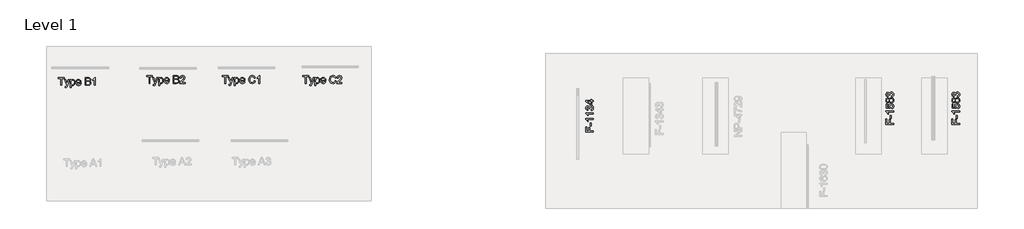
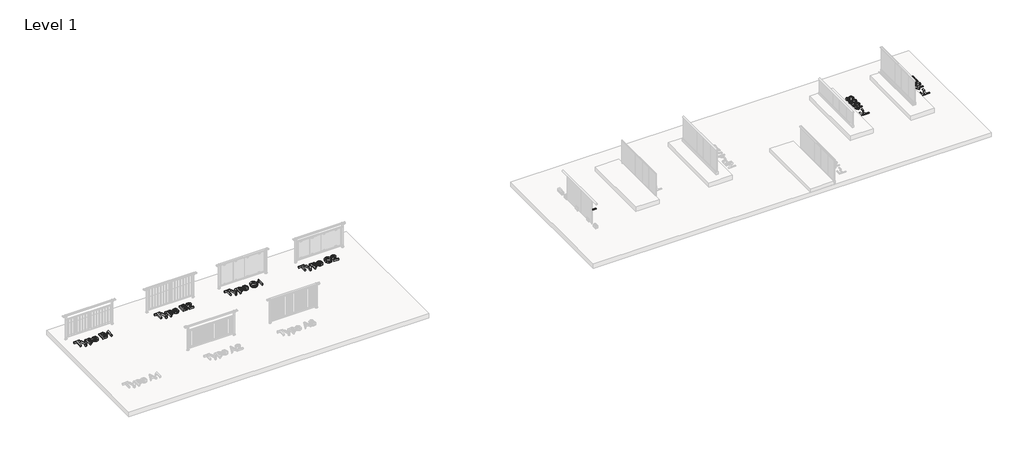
# One storey, part 9 of 9: 7 proxies.
"""IFC4 building model written with IfcOpenShell, lengths in millimetres."""

from ifc_helpers import new_model, si_unit, origin, origin_with_axes, place, context, project, spatial, polyline, outline, extrude, element, save

model = new_model("IFC4")

# Units and contexts
model_context = context("Model", 3, world=origin())
ifc_project = project(units=[si_unit("LENGTHUNIT", "METRE", prefix="MILLI")], contexts=[model_context])

# Site, building, storey
site = spatial("IfcSite", under=ifc_project)
building = spatial("IfcBuilding", under=site)
storey = spatial("IfcBuildingStorey", under=building, Name="Level 1", Elevation=0.0)

# Proxies
placement = place(None, origin())
element("IfcBuildingElementProxy", 1, Name="600mm Arial", ObjectType="600mm Arial", at=placement, inside=storey, context=model_context, shape_type="SweptSolid", body=[
    extrude(outline(polyline([(-2902.9409673, 1236.8167426), (-2902.9409673, 1500.5145568), (-3001.8276476, 1500.5145568), (-3001.8276476, 1538.1856731), (-2766.3831707, 1538.1856731), (-2766.3831707, 1500.5145568), (-2865.269851, 1500.5145568), (-2865.269851, 1236.8167426), (-2902.9409673, 1236.8167426)])), origin_with_axes(), (0.0, 0.0, 1.0), 75.0),
    extrude(outline(polyline([(-2728.7120544, 1152.0567309), (-2733.4209439, 1188.3298957), (-2714.2910802, 1185.0189577), (-2696.4120152, 1189.1760243), (-2685.4491318, 1200.7643071), (-2675.1484359, 1228.5026095), (-2672.2053799, 1237.626083), (-2752.2565021, 1458.1345509), (-2712.5252466, 1458.1345509), (-2670.0716644, 1335.2619645), (-2655.2828082, 1286.11293), (-2640.493952, 1329.5230054), (-2596.8631473, 1458.1345509), (-2557.4261975, 1458.1345509), (-2634.4606872, 1231.5192419), (-2654.4734678, 1182.3702074), (-2664.7189813, 1166.6800403), (-2676.3256583, 1155.8091273), (-2689.8085334, 1149.4631629), (-2705.6826415, 1147.3478414), (-2728.7120544, 1152.0567309)])), origin_with_axes(), (0.0, 0.0, 1.0), 75.0),
    extrude(outline(polyline([(-2526.2298043, 1152.0567309), (-2526.2298043, 1458.1345509), (-2488.558688, 1458.1345509), (-2488.558688, 1421.1991986), (-2476.2714293, 1439.4185544), (-2462.5126427, 1452.43238), (-2446.4729877, 1460.2406754), (-2427.343124, 1462.8434405), (-2401.8672958, 1459.2014087), (-2379.592041, 1448.2753135), (-2361.4554586, 1430.7273423), (-2348.3956478, 1407.2196828), (-2340.504579, 1379.4629863), (-2337.8742227, 1349.167904), (-2340.8448698, 1316.9506382), (-2349.7568112, 1288.136281), (-2364.3249382, 1264.1871631), (-2384.2641423, 1246.5656155), (-2407.4866933, 1235.7222937), (-2431.9048607, 1232.1078531), (-2449.2229056, 1234.5266772), (-2464.6831465, 1241.7831496), (-2477.9177012, 1252.736836), (-2488.558688, 1266.2473023), (-2488.558688, 1152.0567309), (-2526.2298043, 1152.0567309)]), holes=[polyline([(-2488.558688, 1345.7098132), (-2484.4843949, 1311.9382461), (-2472.2615156, 1288.320222), (-2454.2261008, 1274.4142825), (-2432.7142011, 1269.7789694), (-2410.8528135, 1274.5798294), (-2392.3575462, 1288.9824096), (-2379.7483908, 1313.4649563), (-2375.545339, 1348.5057164), (-2379.6472233, 1382.0933425), (-2391.952876, 1406.0424604), (-2409.9606997, 1420.3898582), (-2431.1690967, 1425.1723242), (-2452.4602672, 1420.0863556), (-2471.1578696, 1404.8284498), (-2484.2084834, 1379.8768535), (-2488.558688, 1345.7098132)])]), origin_with_axes(), (0.0, 0.0, 1.0), 75.0),
    extrude(outline(polyline([(-2140.5423205, 1302.7411962), (-2103.6069682, 1298.0323066), (-2116.9150994, 1270.2020337), (-2138.1510875, 1249.3983069), (-2166.8366861, 1236.4304665), (-2202.4936485, 1232.1078531), (-2225.8679508, 1233.972555), (-2246.6946702, 1239.5666606), (-2264.9738069, 1248.8901699), (-2280.7053607, 1261.9430829), (-2293.3559028, 1278.3621162), (-2302.3920043, 1297.7839863), (-2307.8136652, 1320.2086932), (-2309.6208855, 1345.6362368), (-2307.7952711, 1371.9260039), (-2302.3184279, 1395.0979711), (-2293.1903559, 1415.1521383), (-2280.4110551, 1432.0885057), (-2264.720888, 1445.5437897), (-2246.8602171, 1455.1547068), (-2226.8290425, 1460.9212571), (-2204.6273641, 1462.8434405), (-2183.1407563, 1460.9258556), (-2163.7096892, 1455.1731009), (-2146.3341627, 1445.5851764), (-2131.0141768, 1432.1620821), (-2118.5084883, 1415.2625029), (-2109.5758536, 1395.2451239), (-2104.2162728, 1372.1099449), (-2102.4297458, 1345.856966), (-2102.650475, 1335.7034229), (-2271.9497692, 1335.7034229), (-2265.4290608, 1307.505268), (-2250.2815197, 1286.7751176), (-2228.4201321, 1274.0280065), (-2201.7578845, 1269.7789694), (-2181.7083158, 1271.7471381), (-2164.8225322, 1277.6516441), (-2151.1005338, 1287.8603695), (-2140.5423205, 1302.7411962)]), holes=[polyline([(-2271.9497692, 1373.3745392), (-2140.1008621, 1373.3745392), (-2145.1960278, 1393.2769552), (-2155.1840239, 1407.5139884), (-2177.146579, 1420.7577402), (-2204.7745169, 1425.1723242), (-2230.1675716, 1421.6498541), (-2251.1644365, 1411.0824438), (-2265.7601546, 1394.6105274), (-2271.9497692, 1373.3745392)])]), origin_with_axes(), (0.0, 0.0, 1.0), 75.0),
    extrude(outline(polyline([(-1942.3275015, 1236.8167426), (-1942.3275015, 1538.1856731), (-1827.3275898, 1538.1856731), (-1795.6989353, 1535.9691841), (-1771.0048564, 1529.319717), (-1752.0773277, 1518.071725), (-1737.748324, 1502.0596612), (-1728.7260181, 1483.224103), (-1725.7185828, 1463.5056281), (-1728.2477715, 1445.3598487), (-1735.8353376, 1428.2993211), (-1748.5364635, 1413.3725092), (-1766.4063314, 1401.6278765), (-1745.0599787, 1390.481052), (-1729.2870381, 1373.521692), (-1719.5473623, 1351.8718366), (-1716.3008037, 1326.6535259), (-1718.5172927, 1305.6382669), (-1725.1667598, 1286.1497182), (-1735.0903766, 1269.5766343), (-1747.1293149, 1257.3077698), (-1761.8721858, 1248.4234196), (-1779.9076006, 1242.0038788), (-1828.2105066, 1236.8167426), (-1942.3275015, 1236.8167426)]), holes=[polyline([(-1904.6563852, 1415.7545451), (-1835.8624521, 1415.7545451), (-1795.6897382, 1418.9919067), (-1781.627449, 1424.5745159), (-1771.5198912, 1432.9346343), (-1765.4222471, 1443.943503), (-1763.3896991, 1457.4723633), (-1765.2842913, 1470.6057506), (-1770.9680682, 1482.0468806), (-1780.1835121, 1490.9772161), (-1792.6731059, 1496.5782194), (-1841.0863764, 1500.5145568), (-1904.6563852, 1500.5145568), (-1904.6563852, 1415.7545451)]), polyline([(-1904.6563852, 1274.4878589), (-1827.4011662, 1274.4878589), (-1799.4421346, 1275.9593869), (-1775.7873223, 1284.1631554), (-1760.1155493, 1300.9017862), (-1755.5078273, 1312.7291923), (-1753.97192, 1326.2856439), (-1755.7745418, 1342.0309933), (-1761.1824071, 1355.5690507), (-1770.6277773, 1366.1548551), (-1784.5429138, 1373.0434455), (-1804.2521917, 1376.823433), (-1831.0799862, 1378.0834288), (-1904.6563852, 1378.0834288), (-1904.6563852, 1274.4878589)])]), origin_with_axes(), (0.0, 0.0, 1.0), 75.0),
    extrude(outline(polyline([(-1537.3630012, 1236.8167426), (-1575.0341175, 1236.8167426), (-1575.0341175, 1471.6726084), (-1610.7186711, 1446.2519625), (-1650.3763501, 1427.2324633), (-1650.3763501, 1462.8434405), (-1620.7894407, 1478.9382778), (-1595.1572627, 1498.0865356), (-1574.9513441, 1518.448804), (-1561.6432129, 1538.1856731), (-1537.3630012, 1538.1856731), (-1537.3630012, 1236.8167426)])), origin_with_axes(), (0.0, 0.0, 1.0), 75.0),
])
element("IfcBuildingElementProxy", 2, Name="600mm Arial", ObjectType="600mm Arial", at=placement, inside=storey, context=model_context, shape_type="SweptSolid", body=[
    extrude(outline(polyline([(576.284977, 1315.3571132), (576.284977, 1579.0549274), (477.3982967, 1579.0549274), (477.3982967, 1616.7260437), (712.8427736, 1616.7260437), (712.8427736, 1579.0549274), (613.9560933, 1579.0549274), (613.9560933, 1315.3571132), (576.284977, 1315.3571132)])), origin_with_axes(), (0.0, 0.0, 1.0), 75.0),
    extrude(outline(polyline([(750.51389, 1230.5971015), (745.8050004, 1266.8702663), (764.9348642, 1263.5593283), (782.8139291, 1267.7163949), (793.7768126, 1279.3046777), (804.0775085, 1307.0429801), (807.0205644, 1316.1664536), (726.9694423, 1536.6749215), (766.7006977, 1536.6749215), (809.15428, 1413.8023351), (823.9431362, 1364.6533006), (838.7319924, 1408.063376), (882.362797, 1536.6749215), (921.7997469, 1536.6749215), (844.7652571, 1310.0596125), (824.7524766, 1260.9105779), (814.506963, 1245.2204109), (802.9002861, 1234.3494979), (789.4174109, 1228.0035335), (773.5433029, 1225.888212), (750.51389, 1230.5971015)])), origin_with_axes(), (0.0, 0.0, 1.0), 75.0),
    extrude(outline(polyline([(952.9961401, 1230.5971015), (952.9961401, 1536.6749215), (990.6672564, 1536.6749215), (990.6672564, 1499.7395692), (1002.954515, 1517.958925), (1016.7133017, 1530.9727506), (1032.7529567, 1538.781046), (1051.8828204, 1541.3838111), (1077.3586486, 1537.7417793), (1099.6339034, 1526.8156841), (1117.7704857, 1509.2677129), (1130.8302966, 1485.7600534), (1138.7213654, 1458.0033569), (1141.3517216, 1427.7082746), (1138.3810745, 1395.4910088), (1129.4691332, 1366.6766516), (1114.9010062, 1342.7275337), (1094.961802, 1325.1059861), (1071.7392511, 1314.2626643), (1047.3210837, 1310.6482237), (1030.0030387, 1313.0670478), (1014.5427979, 1320.3235202), (1001.3082431, 1331.2772066), (990.6672564, 1344.7876728), (990.6672564, 1230.5971015), (952.9961401, 1230.5971015)]), holes=[polyline([(990.6672564, 1424.2501838), (994.7415495, 1390.4786166), (1006.9644288, 1366.8605926), (1024.9998436, 1352.9546531), (1046.5117433, 1348.31934), (1068.3731308, 1353.1202), (1086.8683981, 1367.5227801), (1099.4775535, 1392.0053269), (1103.6806053, 1427.046087), (1099.5787211, 1460.6337131), (1087.2730683, 1484.582831), (1069.2652447, 1498.9302288), (1048.0568477, 1503.7126948), (1026.7656772, 1498.6267262), (1008.0680748, 1483.3688204), (995.017461, 1458.4172241), (990.6672564, 1424.2501838)])]), origin_with_axes(), (0.0, 0.0, 1.0), 75.0),
    extrude(outline(polyline([(1338.6836238, 1381.2815668), (1375.6189762, 1376.5726772), (1362.310845, 1348.7424043), (1341.0748568, 1327.9386775), (1312.3892582, 1314.9708371), (1276.7322959, 1310.6482237), (1253.3579936, 1312.5129256), (1232.5312741, 1318.1070311), (1214.2521375, 1327.4305405), (1198.5205837, 1340.4834535), (1185.8700416, 1356.9024868), (1176.8339401, 1376.3243569), (1171.4122792, 1398.7490638), (1169.6050589, 1424.1766074), (1171.4306733, 1450.4663745), (1176.9075165, 1473.6383417), (1186.0355885, 1493.6925089), (1198.8148893, 1510.6288763), (1214.5050564, 1524.0841602), (1232.3657272, 1533.6950774), (1252.3969019, 1539.4616276), (1274.5985803, 1541.3838111), (1296.0851881, 1539.4662262), (1315.5162552, 1533.7134715), (1332.8917817, 1524.125547), (1348.2117675, 1510.7024527), (1360.7174561, 1493.8028735), (1369.6500908, 1473.7854945), (1375.0096716, 1450.6503155), (1376.7961985, 1424.3973366), (1376.5754693, 1414.2437935), (1207.2761752, 1414.2437935), (1213.7968835, 1386.0456386), (1228.9444247, 1365.3154882), (1250.8058122, 1352.568377), (1277.4680598, 1348.31934), (1297.5176286, 1350.2875087), (1314.4034122, 1356.1920147), (1328.1254106, 1366.4007401), (1338.6836238, 1381.2815668)]), holes=[polyline([(1207.2761752, 1451.9149098), (1339.1250822, 1451.9149098), (1334.0299166, 1471.8173258), (1324.0419204, 1486.054359), (1302.0793653, 1499.2981108), (1274.4514275, 1503.7126948), (1249.0583728, 1500.1902247), (1228.0615079, 1489.6228143), (1213.4657897, 1473.150898), (1207.2761752, 1451.9149098)])]), origin_with_axes(), (0.0, 0.0, 1.0), 75.0),
    extrude(outline(polyline([(1536.8984428, 1315.3571132), (1536.8984428, 1616.7260437), (1651.8983545, 1616.7260437), (1683.5270091, 1614.5095547), (1708.221088, 1607.8600876), (1727.1486167, 1596.6120956), (1741.4776204, 1580.6000318), (1750.4999263, 1561.7644736), (1753.5073616, 1542.0459987), (1750.9781729, 1523.9002192), (1743.3906067, 1506.8396917), (1730.6894809, 1491.9128798), (1712.8196129, 1480.1682471), (1734.1659657, 1469.0214226), (1749.9389063, 1452.0620626), (1759.6785821, 1430.4122072), (1762.9251407, 1405.1938965), (1760.7086517, 1384.1786375), (1754.0591846, 1364.6900888), (1744.1355678, 1348.1170049), (1732.0966295, 1335.8481404), (1717.3537585, 1326.9637902), (1699.3183437, 1320.5442494), (1651.0154377, 1315.3571132), (1536.8984428, 1315.3571132)]), holes=[polyline([(1574.5695592, 1494.2949157), (1643.3634923, 1494.2949157), (1683.5362061, 1497.5322772), (1697.5984954, 1503.1148865), (1707.7060532, 1511.4750049), (1713.8036973, 1522.4838736), (1715.8362453, 1536.0127339), (1713.941653, 1549.1461212), (1708.2578762, 1560.5872512), (1699.0424322, 1569.5175866), (1686.5528385, 1575.11859), (1638.1395679, 1579.0549274), (1574.5695592, 1579.0549274), (1574.5695592, 1494.2949157)]), polyline([(1574.5695592, 1353.0282295), (1651.8247781, 1353.0282295), (1679.7838098, 1354.4997575), (1703.4386221, 1362.703526), (1719.1103951, 1379.4421568), (1723.718117, 1391.2695629), (1725.2540244, 1404.8260145), (1723.4514026, 1420.5713639), (1718.0435373, 1434.1094213), (1708.598167, 1444.6952257), (1694.6830306, 1451.583816), (1674.9737527, 1455.3638035), (1648.1459582, 1456.6237994), (1574.5695592, 1456.6237994), (1574.5695592, 1353.0282295)])]), origin_with_axes(), (0.0, 0.0, 1.0), 75.0),
    extrude(outline(polyline([(1993.6607281, 1353.0282295), (1993.6607281, 1315.3571132), (1795.8873675, 1315.3571132), (1799.9340694, 1341.3295821), (1809.2230898, 1361.6274712), (1822.8163295, 1381.318355), (1842.4796221, 1401.9289437), (1869.9788013, 1424.9859478), (1910.6297617, 1461.0935656), (1935.020338, 1487.7466162), (1947.2156262, 1509.3780775), (1951.2807222, 1530.4209276), (1947.4455524, 1549.2840769), (1935.940043, 1564.965047), (1918.2541161, 1575.5324573), (1895.8776937, 1579.0549274), (1872.3792313, 1575.6152307), (1854.1230873, 1565.2961408), (1842.3416664, 1548.9069979), (1838.2673733, 1527.2571425), (1800.596257, 1531.966032), (1809.7289275, 1568.4047436), (1818.2752861, 1582.9406809), (1829.4749936, 1595.021006), (1843.0705326, 1604.51696), (1858.8043857, 1611.2997843), (1896.6870341, 1616.7260437), (1916.8768579, 1615.2177275), (1934.8455941, 1610.692779), (1950.5932427, 1603.1511981), (1964.1198038, 1592.5929848), (1974.983819, 1579.7998884), (1982.7438299, 1565.5536582), (1987.3998364, 1549.854294), (1988.9518385, 1532.701796), (1987.2779754, 1514.6847753), (1982.2563862, 1496.9804542), (1973.3444449, 1478.9726306), (1959.9995255, 1460.0451019), (1938.7267491, 1437.4479504), (1906.0312368, 1408.431258), (1862.6947378, 1372.1948815), (1845.6985896, 1353.0282295), (1993.6607281, 1353.0282295)])), origin_with_axes(), (0.0, 0.0, 1.0), 75.0),
])
element("IfcBuildingElementProxy", 3, Name="600mm Arial", ObjectType="600mm Arial", at=placement, inside=storey, context=model_context, shape_type="SweptSolid", body=[
    extrude(outline(polyline([(3556.284977, 1315.3571132), (3556.284977, 1579.0549274), (3457.3982967, 1579.0549274), (3457.3982967, 1616.7260437), (3692.8427736, 1616.7260437), (3692.8427736, 1579.0549274), (3593.9560933, 1579.0549274), (3593.9560933, 1315.3571132), (3556.284977, 1315.3571132)])), origin_with_axes(), (0.0, 0.0, 1.0), 75.0),
    extrude(outline(polyline([(3730.51389, 1230.5971015), (3725.8050004, 1266.8702663), (3744.9348642, 1263.5593283), (3762.8139291, 1267.7163949), (3773.7768126, 1279.3046777), (3784.0775085, 1307.0429801), (3787.0205644, 1316.1664536), (3706.9694423, 1536.6749215), (3746.7006977, 1536.6749215), (3789.15428, 1413.8023351), (3803.9431362, 1364.6533006), (3818.7319924, 1408.063376), (3862.362797, 1536.6749215), (3901.7997469, 1536.6749215), (3824.7652571, 1310.0596125), (3804.7524766, 1260.9105779), (3794.506963, 1245.2204109), (3782.9002861, 1234.3494979), (3769.4174109, 1228.0035335), (3753.5433029, 1225.888212), (3730.51389, 1230.5971015)])), origin_with_axes(), (0.0, 0.0, 1.0), 75.0),
    extrude(outline(polyline([(3932.9961401, 1230.5971015), (3932.9961401, 1536.6749215), (3970.6672564, 1536.6749215), (3970.6672564, 1499.7395692), (3982.954515, 1517.958925), (3996.7133017, 1530.9727506), (4012.7529567, 1538.781046), (4031.8828204, 1541.3838111), (4057.3586486, 1537.7417793), (4079.6339034, 1526.8156841), (4097.7704857, 1509.2677129), (4110.8302966, 1485.7600534), (4118.7213654, 1458.0033569), (4121.3517216, 1427.7082746), (4118.3810745, 1395.4910088), (4109.4691332, 1366.6766516), (4094.9010062, 1342.7275337), (4074.961802, 1325.1059861), (4051.7392511, 1314.2626643), (4027.3210837, 1310.6482237), (4010.0030387, 1313.0670478), (3994.5427979, 1320.3235202), (3981.3082431, 1331.2772066), (3970.6672564, 1344.7876728), (3970.6672564, 1230.5971015), (3932.9961401, 1230.5971015)]), holes=[polyline([(3970.6672564, 1424.2501838), (3974.7415495, 1390.4786166), (3986.9644288, 1366.8605926), (4004.9998436, 1352.9546531), (4026.5117433, 1348.31934), (4048.3731308, 1353.1202), (4066.8683981, 1367.5227801), (4079.4775535, 1392.0053269), (4083.6806053, 1427.046087), (4079.5787211, 1460.6337131), (4067.2730683, 1484.582831), (4049.2652447, 1498.9302288), (4028.0568477, 1503.7126948), (4006.7656772, 1498.6267262), (3988.0680748, 1483.3688204), (3975.017461, 1458.4172241), (3970.6672564, 1424.2501838)])]), origin_with_axes(), (0.0, 0.0, 1.0), 75.0),
    extrude(outline(polyline([(4318.6836238, 1381.2815668), (4355.6189762, 1376.5726772), (4342.310845, 1348.7424043), (4321.0748568, 1327.9386775), (4292.3892582, 1314.9708371), (4256.7322959, 1310.6482237), (4233.3579936, 1312.5129256), (4212.5312741, 1318.1070311), (4194.2521375, 1327.4305405), (4178.5205837, 1340.4834535), (4165.8700416, 1356.9024868), (4156.8339401, 1376.3243569), (4151.4122792, 1398.7490638), (4149.6050589, 1424.1766074), (4151.4306733, 1450.4663745), (4156.9075165, 1473.6383417), (4166.0355885, 1493.6925089), (4178.8148893, 1510.6288763), (4194.5050564, 1524.0841602), (4212.3657272, 1533.6950774), (4232.3969019, 1539.4616276), (4254.5985803, 1541.3838111), (4276.0851881, 1539.4662262), (4295.5162552, 1533.7134715), (4312.8917817, 1524.125547), (4328.2117675, 1510.7024527), (4340.7174561, 1493.8028735), (4349.6500908, 1473.7854945), (4355.0096716, 1450.6503155), (4356.7961985, 1424.3973366), (4356.5754693, 1414.2437935), (4187.2761752, 1414.2437935), (4193.7968835, 1386.0456386), (4208.9444247, 1365.3154882), (4230.8058122, 1352.568377), (4257.4680598, 1348.31934), (4277.5176286, 1350.2875087), (4294.4034122, 1356.1920147), (4308.1254106, 1366.4007401), (4318.6836238, 1381.2815668)]), holes=[polyline([(4187.2761752, 1451.9149098), (4319.1250822, 1451.9149098), (4314.0299166, 1471.8173258), (4304.0419204, 1486.054359), (4282.0793653, 1499.2981108), (4254.4514275, 1503.7126948), (4229.0583728, 1500.1902247), (4208.0615079, 1489.6228143), (4193.4657897, 1473.150898), (4187.2761752, 1451.9149098)])]), origin_with_axes(), (0.0, 0.0, 1.0), 75.0),
    extrude(outline(polyline([(4728.7984721, 1422.4843502), (4766.4695884, 1412.7722656), (4759.0153794, 1389.3450802), (4749.0871641, 1368.8747465), (4736.6849423, 1351.3612642), (4721.8087142, 1336.8046335), (4704.7941719, 1325.3612042), (4685.9770078, 1317.1873262), (4665.357222, 1312.2829993), (4642.9348144, 1310.6482237), (4599.2396304, 1315.5962365), (4564.5391612, 1330.440275), (4537.941293, 1354.6653044), (4518.5539118, 1387.7562899), (4506.7173086, 1426.6598109), (4502.7717742, 1468.3224468), (4507.2323434, 1512.2659511), (4520.614051, 1550.212979), (4542.2179212, 1580.9587167), (4571.3449781, 1603.2983509), (4605.8890975, 1616.9007876), (4643.7441548, 1621.4349332), (4685.0481058, 1615.5672154), (4703.016842, 1608.2325681), (4719.196752, 1597.9640619), (4733.3211213, 1585.0330098), (4745.1232356, 1569.7107247), (4761.7606988, 1531.8924556), (4724.0895825, 1522.9161349), (4711.0297717, 1550.3877229), (4693.1874949, 1569.2324781), (4670.342023, 1580.1309822), (4642.2726268, 1583.7638169), (4609.9174053, 1579.7355091), (4583.3379312, 1567.6505855), (4563.1688008, 1548.7782392), (4550.0446106, 1524.3876629), (4542.8433206, 1496.8149074), (4540.4428905, 1468.3960232), (4543.2847789, 1433.5943865), (4551.8104442, 1403.5016393), (4566.341783, 1379.2674128), (4587.2006921, 1362.0413384), (4612.2074707, 1351.7498396), (4639.182418, 1348.31934), (4670.6271316, 1352.9914413), (4696.8295267, 1367.0077454), (4716.612381, 1390.2210992), (4728.7984721, 1422.4843502)])), origin_with_axes(), (0.0, 0.0, 1.0), 75.0),
    extrude(outline(polyline([(4945.4073908, 1315.3571132), (4907.7362745, 1315.3571132), (4907.7362745, 1550.212979), (4872.051721, 1524.7923331), (4832.3940419, 1505.7728339), (4832.3940419, 1541.3838111), (4861.9809514, 1557.4786484), (4887.6131294, 1576.6269062), (4907.819048, 1596.9891746), (4921.1271791, 1616.7260437), (4945.4073908, 1616.7260437), (4945.4073908, 1315.3571132)])), origin_with_axes(), (0.0, 0.0, 1.0), 75.0),
])
element("IfcBuildingElementProxy", 4, Name="600mm Arial", ObjectType="600mm Arial", at=placement, inside=storey, context=model_context, shape_type="SweptSolid", body=[
    extrude(outline(polyline([(6736.284977, 1315.3571132), (6736.284977, 1579.0549274), (6637.3982967, 1579.0549274), (6637.3982967, 1616.7260437), (6872.8427736, 1616.7260437), (6872.8427736, 1579.0549274), (6773.9560933, 1579.0549274), (6773.9560933, 1315.3571132), (6736.284977, 1315.3571132)])), origin_with_axes(), (0.0, 0.0, 1.0), 75.0),
    extrude(outline(polyline([(6910.51389, 1230.5971015), (6905.8050004, 1266.8702663), (6924.9348642, 1263.5593283), (6942.8139291, 1267.7163949), (6953.7768126, 1279.3046777), (6964.0775085, 1307.0429801), (6967.0205644, 1316.1664536), (6886.9694423, 1536.6749215), (6926.7006977, 1536.6749215), (6969.15428, 1413.8023351), (6983.9431362, 1364.6533006), (6998.7319924, 1408.063376), (7042.362797, 1536.6749215), (7081.7997469, 1536.6749215), (7004.7652571, 1310.0596125), (6984.7524766, 1260.9105779), (6974.506963, 1245.2204109), (6962.9002861, 1234.3494979), (6949.4174109, 1228.0035335), (6933.5433029, 1225.888212), (6910.51389, 1230.5971015)])), origin_with_axes(), (0.0, 0.0, 1.0), 75.0),
    extrude(outline(polyline([(7112.9961401, 1230.5971015), (7112.9961401, 1536.6749215), (7150.6672564, 1536.6749215), (7150.6672564, 1499.7395692), (7162.954515, 1517.958925), (7176.7133017, 1530.9727506), (7192.7529567, 1538.781046), (7211.8828204, 1541.3838111), (7237.3586486, 1537.7417793), (7259.6339034, 1526.8156841), (7277.7704857, 1509.2677129), (7290.8302966, 1485.7600534), (7298.7213654, 1458.0033569), (7301.3517216, 1427.7082746), (7298.3810745, 1395.4910088), (7289.4691332, 1366.6766516), (7274.9010062, 1342.7275337), (7254.961802, 1325.1059861), (7231.7392511, 1314.2626643), (7207.3210837, 1310.6482237), (7190.0030387, 1313.0670478), (7174.5427979, 1320.3235202), (7161.3082431, 1331.2772066), (7150.6672564, 1344.7876728), (7150.6672564, 1230.5971015), (7112.9961401, 1230.5971015)]), holes=[polyline([(7150.6672564, 1424.2501838), (7154.7415495, 1390.4786166), (7166.9644288, 1366.8605926), (7184.9998436, 1352.9546531), (7206.5117433, 1348.31934), (7228.3731308, 1353.1202), (7246.8683981, 1367.5227801), (7259.4775535, 1392.0053269), (7263.6806053, 1427.046087), (7259.5787211, 1460.6337131), (7247.2730683, 1484.582831), (7229.2652447, 1498.9302288), (7208.0568477, 1503.7126948), (7186.7656772, 1498.6267262), (7168.0680748, 1483.3688204), (7155.017461, 1458.4172241), (7150.6672564, 1424.2501838)])]), origin_with_axes(), (0.0, 0.0, 1.0), 75.0),
    extrude(outline(polyline([(7498.6836238, 1381.2815668), (7535.6189762, 1376.5726772), (7522.310845, 1348.7424043), (7501.0748568, 1327.9386775), (7472.3892582, 1314.9708371), (7436.7322959, 1310.6482237), (7413.3579936, 1312.5129256), (7392.5312741, 1318.1070311), (7374.2521375, 1327.4305405), (7358.5205837, 1340.4834535), (7345.8700416, 1356.9024868), (7336.8339401, 1376.3243569), (7331.4122792, 1398.7490638), (7329.6050589, 1424.1766074), (7331.4306733, 1450.4663745), (7336.9075165, 1473.6383417), (7346.0355885, 1493.6925089), (7358.8148893, 1510.6288763), (7374.5050564, 1524.0841602), (7392.3657272, 1533.6950774), (7412.3969019, 1539.4616276), (7434.5985803, 1541.3838111), (7456.0851881, 1539.4662262), (7475.5162552, 1533.7134715), (7492.8917817, 1524.125547), (7508.2117675, 1510.7024527), (7520.7174561, 1493.8028735), (7529.6500908, 1473.7854945), (7535.0096716, 1450.6503155), (7536.7961985, 1424.3973366), (7536.5754693, 1414.2437935), (7367.2761752, 1414.2437935), (7373.7968835, 1386.0456386), (7388.9444247, 1365.3154882), (7410.8058122, 1352.568377), (7437.4680598, 1348.31934), (7457.5176286, 1350.2875087), (7474.4034122, 1356.1920147), (7488.1254106, 1366.4007401), (7498.6836238, 1381.2815668)]), holes=[polyline([(7367.2761752, 1451.9149098), (7499.1250822, 1451.9149098), (7494.0299166, 1471.8173258), (7484.0419204, 1486.054359), (7462.0793653, 1499.2981108), (7434.4514275, 1503.7126948), (7409.0583728, 1500.1902247), (7388.0615079, 1489.6228143), (7373.4657897, 1473.150898), (7367.2761752, 1451.9149098)])]), origin_with_axes(), (0.0, 0.0, 1.0), 75.0),
    extrude(outline(polyline([(7908.7984721, 1422.4843502), (7946.4695884, 1412.7722656), (7939.0153794, 1389.3450802), (7929.0871641, 1368.8747465), (7916.6849423, 1351.3612642), (7901.8087142, 1336.8046335), (7884.7941719, 1325.3612042), (7865.9770078, 1317.1873262), (7845.357222, 1312.2829993), (7822.9348144, 1310.6482237), (7779.2396304, 1315.5962365), (7744.5391612, 1330.440275), (7717.941293, 1354.6653044), (7698.5539118, 1387.7562899), (7686.7173086, 1426.6598109), (7682.7717742, 1468.3224468), (7687.2323434, 1512.2659511), (7700.614051, 1550.212979), (7722.2179212, 1580.9587167), (7751.3449781, 1603.2983509), (7785.8890975, 1616.9007876), (7823.7441548, 1621.4349332), (7865.0481058, 1615.5672154), (7883.016842, 1608.2325681), (7899.196752, 1597.9640619), (7913.3211213, 1585.0330098), (7925.1232356, 1569.7107247), (7941.7606988, 1531.8924556), (7904.0895825, 1522.9161349), (7891.0297717, 1550.3877229), (7873.1874949, 1569.2324781), (7850.342023, 1580.1309822), (7822.2726268, 1583.7638169), (7789.9174053, 1579.7355091), (7763.3379312, 1567.6505855), (7743.1688008, 1548.7782392), (7730.0446106, 1524.3876629), (7722.8433206, 1496.8149074), (7720.4428905, 1468.3960232), (7723.2847789, 1433.5943865), (7731.8104442, 1403.5016393), (7746.341783, 1379.2674128), (7767.2006921, 1362.0413384), (7792.2074707, 1351.7498396), (7819.182418, 1348.31934), (7850.6271316, 1352.9914413), (7876.8295267, 1367.0077454), (7896.612381, 1390.2210992), (7908.7984721, 1422.4843502)])), origin_with_axes(), (0.0, 0.0, 1.0), 75.0),
    extrude(outline(polyline([(8177.2051757, 1353.0282295), (8177.2051757, 1315.3571132), (7979.4318151, 1315.3571132), (7983.4785171, 1341.3295821), (7992.7675375, 1361.6274712), (8006.3607772, 1381.318355), (8026.0240698, 1401.9289437), (8053.523249, 1424.9859478), (8094.1742094, 1461.0935656), (8118.5647857, 1487.7466162), (8130.7600739, 1509.3780775), (8134.8251699, 1530.4209276), (8130.9900001, 1549.2840769), (8119.4844907, 1564.965047), (8101.7985638, 1575.5324573), (8079.4221414, 1579.0549274), (8055.923679, 1575.6152307), (8037.667535, 1565.2961408), (8025.8861141, 1548.9069979), (8021.811821, 1527.2571425), (7984.1407047, 1531.966032), (7993.2733752, 1568.4047436), (8001.8197338, 1582.9406809), (8013.0194413, 1595.021006), (8026.6149803, 1604.51696), (8042.3488334, 1611.2997843), (8080.2314818, 1616.7260437), (8100.4213056, 1615.2177275), (8118.3900418, 1610.692779), (8134.1376904, 1603.1511981), (8147.6642515, 1592.5929848), (8158.5282667, 1579.7998884), (8166.2882775, 1565.5536582), (8170.944284, 1549.854294), (8172.4962862, 1532.701796), (8170.8224231, 1514.6847753), (8165.8008339, 1496.9804542), (8156.8888926, 1478.9726306), (8143.5439732, 1460.0451019), (8122.2711968, 1437.4479504), (8089.5756845, 1408.431258), (8046.2391855, 1372.1948815), (8029.2430373, 1353.0282295), (8177.2051757, 1353.0282295)])), origin_with_axes(), (0.0, 0.0, 1.0), 75.0),
])
element("IfcBuildingElementProxy", 5, Name="600mm Arial", ObjectType="600mm Arial", at=placement, inside=storey, context=model_context, shape_type="SweptSolid", body=[
    extrude(outline(polyline([(18080.6568015, -602.0742969), (17779.2878711, -602.0742969), (17779.2878711, -399.5920467), (17816.9589874, -399.5920467), (17816.9589874, -564.4031806), (17906.4278886, -564.4031806), (17906.4278886, -423.1364944), (17944.0990049, -423.1364944), (17944.0990049, -564.4031806), (18080.6568015, -564.4031806), (18080.6568015, -602.0742969)])), origin_with_axes(), (0.0, 0.0, 1.0), 30.0),
    extrude(outline(polyline([(17991.1879003, -371.3387095), (17953.516784, -371.3387095), (17953.516784, -253.616471), (17991.1879003, -253.616471), (17991.1879003, -371.3387095)])), origin_with_axes(), (0.0, 0.0, 1.0), 30.0),
    extrude(outline(polyline([(18080.6568015, -79.3875581), (18080.6568015, -117.0586744), (17845.8009358, -117.0586744), (17871.2215817, -152.743228), (17890.2410808, -192.400907), (17854.6301037, -192.400907), (17838.5352664, -162.8139976), (17819.3870085, -137.1818196), (17799.0247401, -116.975901), (17779.2878711, -103.6677698), (17779.2878711, -79.3875581), (18080.6568015, -79.3875581)])), origin_with_axes(), (0.0, 0.0, 1.0), 30.0),
    extrude(outline(polyline([(18080.6568015, 151.3480293), (18080.6568015, 113.6769129), (17845.8009358, 113.6769129), (17871.2215817, 77.9923594), (17890.2410808, 38.3346803), (17854.6301037, 38.3346803), (17838.5352664, 67.9215898), (17819.3870085, 93.5537678), (17799.0247401, 113.7596864), (17779.2878711, 127.0678176), (17779.2878711, 151.3480293), (18080.6568015, 151.3480293)])), origin_with_axes(), (0.0, 0.0, 1.0), 30.0),
    extrude(outline(polyline([(18000.6056794, 240.8169305), (17995.8967898, 278.4880468), (18019.5699962, 286.9217415), (18035.5544689, 299.2733795), (18044.6595483, 316.149966), (18047.6945747, 338.1585064), (18043.5191141, 363.9838225), (18030.9927322, 383.9230266), (18012.3043268, 396.6701377), (17989.6427959, 400.9191748), (17968.1308962, 396.7069259), (17950.6840926, 384.0701794), (17939.1234009, 364.9403157), (17935.269837, 341.2487152), (17939.3901154, 314.8347879), (17901.7189991, 319.0286427), (17902.1604575, 325.0619074), (17899.4565248, 347.6314678), (17891.3447268, 367.8097952), (17877.6227284, 382.0468284), (17858.0881944, 386.7925062), (17841.8186132, 383.3528095), (17828.6208466, 373.0337195), (17819.8744522, 357.2883702), (17816.9589874, 337.5698952), (17819.9020433, 317.8146321), (17828.7312112, 301.6646125), (17843.446491, 289.8739945), (17864.0478828, 283.1969363), (17859.3389932, 245.52582), (17825.5122438, 256.6174622), (17800.2571448, 276.3543312), (17784.5301895, 303.3568697), (17779.2878711, 336.24552), (17781.8722421, 359.9279235), (17789.6253551, 381.6789464), (17801.8574315, 400.0178639), (17817.8786924, 413.4639508), (17836.3371715, 421.7137046), (17855.8809025, 424.4636225), (17874.0910612, 421.8516603), (17890.6089628, 414.0157738), (17904.6804491, 401.0663276), (17915.5513621, 383.1136862), (17925.0795058, 406.6949221), (17941.3031017, 424.1693169), (17963.3392332, 434.9850475), (17990.3049835, 438.5902911), (18009.4164531, 436.7876693), (18027.0196066, 431.379804), (18043.1144439, 422.3666951), (18057.700965, 409.7483427), (18069.8042827, 394.3754738), (18078.4495095, 377.0988156), (18083.6366457, 357.9183681), (18085.365691, 336.8341312), (18083.8895645, 317.7778439), (18079.461185, 300.4138137), (18072.0805525, 284.7420407), (18061.747667, 270.7625249), (18049.0695337, 259.0408848), (18034.653158, 250.1427391), (18018.4985399, 244.0680876), (18000.6056794, 240.8169305)])), origin_with_axes(), (0.0, 0.0, 1.0), 30.0),
    extrude(outline(polyline([(18080.6568015, 593.9836459), (18010.0234584, 593.9836459), (18010.0234584, 457.4258492), (17972.3523421, 457.4258492), (17783.9967606, 603.4014249), (17783.9967606, 631.6547622), (17972.3523421, 631.6547622), (17972.3523421, 669.3258785), (18010.0234584, 669.3258785), (18010.0234584, 631.6547622), (18080.6568015, 631.6547622), (18080.6568015, 593.9836459)]), holes=[polyline([(17972.3523421, 593.9836459), (17855.9544789, 593.9836459), (17972.3523421, 503.7789806), (17972.3523421, 593.9836459)])]), origin_with_axes(), (0.0, 0.0, 1.0), 30.0),
])
element("IfcBuildingElementProxy", 6, Name="600mm Arial", ObjectType="600mm Arial", at=placement, inside=storey, context=model_context, shape_type="SweptSolid", body=[
    extrude(outline(polyline([(29911.1611522, -299.8612459), (29609.7922218, -299.8612459), (29609.7922218, -97.3789957), (29647.4633381, -97.3789957), (29647.4633381, -262.1901296), (29736.9322393, -262.1901296), (29736.9322393, -120.9234434), (29774.6033556, -120.9234434), (29774.6033556, -262.1901296), (29911.1611522, -262.1901296), (29911.1611522, -299.8612459)])), origin_with_axes(), (0.0, 0.0, 1.0), 30.0),
    extrude(outline(polyline([(29821.692251, -69.1256585), (29784.0211347, -69.1256585), (29784.0211347, 48.59658), (29821.692251, 48.59658), (29821.692251, -69.1256585)])), origin_with_axes(), (0.0, 0.0, 1.0), 30.0),
    extrude(outline(polyline([(29911.1611522, 222.8254929), (29911.1611522, 185.1543766), (29676.3052865, 185.1543766), (29701.7259324, 149.469823), (29720.7454315, 109.8121439), (29685.1344544, 109.8121439), (29669.0396171, 139.3990534), (29649.8913592, 165.0312314), (29629.5290908, 185.23715), (29609.7922218, 198.5452812), (29609.7922218, 222.8254929), (29911.1611522, 222.8254929)])), origin_with_axes(), (0.0, 0.0, 1.0), 30.0),
    extrude(outline(polyline([(29831.1100301, 312.2943941), (29826.4011405, 349.9655104), (29849.0166862, 356.8816919), (29865.212691, 368.9482214), (29874.9523668, 386.1099164), (29878.1989255, 408.3115948), (29873.683174, 435.3141333), (29860.1359195, 455.547643), (29839.1206605, 468.1843895), (29812.2008955, 472.3966384), (29786.8538261, 468.451104), (29767.4664449, 456.6145008), (29755.1607922, 436.7948583), (29751.0589079, 408.900206), (29752.6959828, 390.6256679), (29757.6072074, 375.8276147), (29774.6033556, 354.6743999), (29769.8944661, 317.0032836), (29614.5011113, 349.9655104), (29614.5011113, 495.9410861), (29652.1722276, 495.9410861), (29652.1722276, 380.4261396), (29735.1664057, 364.3129082), (29718.8324451, 391.2234762), (29713.3877916, 419.4216311), (29715.0754503, 437.7674463), (29720.1384262, 454.618741), (29728.5767195, 469.975515), (29740.3903301, 483.8377684), (29754.8572895, 495.3133874), (29771.2556295, 503.5102581), (29789.5853499, 508.4283806), (29809.8464508, 510.0677547), (29847.5175671, 504.1632487), (29864.3113801, 496.7826161), (29879.7440298, 486.4497306), (29895.5491601, 470.7963517), (29906.8385388, 452.5310107), (29913.612166, 431.6537074), (29915.8700418, 408.164442), (29910.0667033, 371.1647104), (29902.8125302, 355.4860396), (29892.6566879, 341.6881655), (29880.105014, 330.207948), (29865.6633465, 321.4822469), (29831.1100301, 312.2943941)])), origin_with_axes(), (0.0, 0.0, 1.0), 30.0),
    extrude(outline(polyline([(29745.172796, 597.9179751), (29735.2399821, 577.7488448), (29721.7755011, 563.594585), (29705.0552644, 555.2344667), (29685.3551836, 552.4477605), (29669.9915118, 553.9652738), (29655.9062299, 558.5178135), (29643.0993379, 566.1053796), (29631.5708359, 576.7279722), (29622.0426922, 589.875155), (29615.2368753, 605.0364918), (29609.7922218, 641.401627), (29615.365634, 677.9874914), (29622.3323993, 693.314375), (29632.0858707, 706.6638929), (29643.8397004, 717.4796236), (29656.8075408, 725.2051455), (29670.9893917, 729.8404586), (29686.3852532, 731.385563), (29705.4507376, 728.6356451), (29721.8858657, 720.3858913), (29735.2675733, 706.5443313), (29745.172796, 687.0189944), (29757.1197638, 710.2047571), (29774.7137202, 727.0813437), (29797.1085367, 737.3728425), (29823.4580846, 740.8033421), (29842.2476575, 739.1018878), (29859.4737319, 733.9975252), (29875.1363078, 725.490254), (29889.2353853, 713.5800744), (29900.8880475, 698.8923858), (29909.2113776, 682.0525874), (29914.2053757, 663.0606794), (29915.8700418, 641.9166618), (29914.1984779, 620.7726441), (29909.1837865, 601.7807361), (29900.8259674, 584.9409378), (29889.1250207, 570.2532491), (29874.927075, 558.3430695), (29859.0782588, 549.8357984), (29841.5785721, 544.7314357), (29822.428015, 543.0299815), (29795.0575945, 546.5984368), (29772.5432164, 557.3038029), (29755.6574329, 574.5942567), (29745.172796, 597.9179751)]), holes=[polyline([(29686.4588296, 590.1188769), (29702.9031548, 593.457406), (29716.036542, 603.4729933), (29724.6449807, 619.8713332), (29727.5144602, 642.3581202), (29724.6633748, 664.3206753), (29716.1101184, 680.4706949), (29703.4181895, 690.4035087), (29688.1510867, 693.7144467), (29672.3045698, 690.2931441), (29659.1987737, 680.0292365), (29650.397197, 663.6584877), (29647.4633381, 641.9166618), (29650.3328176, 620.0368801), (29658.9412563, 603.6937225), (29671.5596088, 593.5125883), (29686.4588296, 590.1188769)]), polyline([(29821.1036398, 580.7010978), (29849.4673416, 586.9918799), (29861.6350386, 595.7014861), (29870.6941328, 609.2487406), (29876.3227273, 625.4723366), (29878.1989255, 642.2109674), (29874.2533911, 667.8523424), (29862.4167879, 687.0925708), (29844.4917376, 699.122312), (29822.2808622, 703.1322258), (29799.6929077, 698.9935533), (29781.3723843, 686.577536), (29769.2322785, 666.8958492), (29765.1855765, 640.9601686), (29769.1770962, 615.6774785), (29781.1516551, 596.6303882), (29799.1226906, 584.6834204), (29821.1036398, 580.7010978)])]), origin_with_axes(), (0.0, 0.0, 1.0), 30.0),
    extrude(outline(polyline([(29831.1100301, 773.7655688), (29826.4011405, 811.4366851), (29850.0743469, 819.8703799), (29866.0588196, 832.2220179), (29875.163899, 849.0986044), (29878.1989255, 871.1071448), (29874.0234648, 896.9324608), (29861.4970829, 916.871665), (29842.8086775, 929.6187761), (29820.1471466, 933.8678131), (29798.6352469, 929.6555643), (29781.1884433, 917.0188178), (29769.6277516, 897.888954), (29765.7741877, 874.1973535), (29769.8944661, 847.7834263), (29732.2233498, 851.977281), (29732.6648082, 858.0105457), (29729.9608755, 880.5801061), (29721.8490775, 900.7584336), (29708.1270791, 914.9954668), (29688.5925451, 919.7411445), (29672.3229639, 916.3014479), (29659.1251973, 905.9823579), (29650.3788029, 890.2370085), (29647.4633381, 870.5185336), (29650.406394, 850.7632704), (29659.2355619, 834.6132508), (29673.9508417, 822.8226329), (29694.5522335, 816.1455747), (29689.8433439, 778.4744584), (29656.0165945, 789.5661005), (29630.7614955, 809.3029696), (29615.0345402, 836.305508), (29609.7922218, 869.1941584), (29612.3765928, 892.8765618), (29620.1297058, 914.6275848), (29632.3617822, 932.9665023), (29648.3830431, 946.4125892), (29666.8415222, 954.6623429), (29686.3852532, 957.4122608), (29704.5954119, 954.8002987), (29721.1133135, 946.9644122), (29735.1847998, 934.0149659), (29746.0557128, 916.0623246), (29755.5838565, 939.6435605), (29771.8074525, 957.1179552), (29793.843584, 967.9336859), (29820.8093342, 971.5389294), (29839.9208039, 969.7363077), (29857.5239573, 964.3284423), (29873.6187946, 955.3153335), (29888.2053157, 942.696981), (29900.3086334, 927.3241122), (29908.9538603, 910.047454), (29914.1409964, 890.8670064), (29915.8700418, 869.7827696), (29914.3939153, 850.7264822), (29909.9655357, 833.3624521), (29902.5849032, 817.6906791), (29892.2520177, 803.7111633), (29879.5738844, 791.9895232), (29865.1575087, 783.0913774), (29849.0028906, 777.016726), (29831.1100301, 773.7655688)])), origin_with_axes(), (0.0, 0.0, 1.0), 30.0),
])
element("IfcBuildingElementProxy", 7, Name="600mm Arial", ObjectType="600mm Arial", at=placement, inside=storey, context=model_context, shape_type="SweptSolid", body=[
    extrude(outline(polyline([(32511.1611522, -299.8612459), (32209.7922218, -299.8612459), (32209.7922218, -97.3789957), (32247.4633381, -97.3789957), (32247.4633381, -262.1901296), (32336.9322393, -262.1901296), (32336.9322393, -120.9234434), (32374.6033556, -120.9234434), (32374.6033556, -262.1901296), (32511.1611522, -262.1901296), (32511.1611522, -299.8612459)])), origin_with_axes(), (0.0, 0.0, 1.0), 30.0),
    extrude(outline(polyline([(32421.692251, -69.1256585), (32384.0211347, -69.1256585), (32384.0211347, 48.59658), (32421.692251, 48.59658), (32421.692251, -69.1256585)])), origin_with_axes(), (0.0, 0.0, 1.0), 30.0),
    extrude(outline(polyline([(32511.1611522, 222.8254929), (32511.1611522, 185.1543766), (32276.3052865, 185.1543766), (32301.7259324, 149.469823), (32320.7454315, 109.8121439), (32285.1344544, 109.8121439), (32269.0396171, 139.3990534), (32249.8913592, 165.0312314), (32229.5290908, 185.23715), (32209.7922218, 198.5452812), (32209.7922218, 222.8254929), (32511.1611522, 222.8254929)])), origin_with_axes(), (0.0, 0.0, 1.0), 30.0),
    extrude(outline(polyline([(32431.1100301, 312.2943941), (32426.4011405, 349.9655104), (32449.0166862, 356.8816919), (32465.212691, 368.9482214), (32474.9523668, 386.1099164), (32478.1989255, 408.3115948), (32473.683174, 435.3141333), (32460.1359195, 455.547643), (32439.1206605, 468.1843895), (32412.2008955, 472.3966384), (32386.8538261, 468.451104), (32367.4664449, 456.6145008), (32355.1607922, 436.7948583), (32351.0589079, 408.900206), (32352.6959828, 390.6256679), (32357.6072074, 375.8276147), (32374.6033556, 354.6743999), (32369.8944661, 317.0032836), (32214.5011113, 349.9655104), (32214.5011113, 495.9410861), (32252.1722276, 495.9410861), (32252.1722276, 380.4261396), (32335.1664057, 364.3129082), (32318.8324451, 391.2234762), (32313.3877916, 419.4216311), (32315.0754503, 437.7674463), (32320.1384262, 454.618741), (32328.5767195, 469.975515), (32340.3903301, 483.8377684), (32354.8572895, 495.3133874), (32371.2556295, 503.5102581), (32389.5853499, 508.4283806), (32409.8464508, 510.0677547), (32447.5175671, 504.1632487), (32464.3113801, 496.7826161), (32479.7440298, 486.4497306), (32495.5491601, 470.7963517), (32506.8385388, 452.5310107), (32513.612166, 431.6537074), (32515.8700418, 408.164442), (32510.0667033, 371.1647104), (32502.8125302, 355.4860396), (32492.6566879, 341.6881655), (32480.105014, 330.207948), (32465.6633465, 321.4822469), (32431.1100301, 312.2943941)])), origin_with_axes(), (0.0, 0.0, 1.0), 30.0),
    extrude(outline(polyline([(32345.172796, 597.9179751), (32335.2399821, 577.7488448), (32321.7755011, 563.594585), (32305.0552644, 555.2344667), (32285.3551836, 552.4477605), (32269.9915118, 553.9652738), (32255.9062299, 558.5178135), (32243.0993379, 566.1053796), (32231.5708359, 576.7279722), (32222.0426922, 589.875155), (32215.2368753, 605.0364918), (32209.7922218, 641.401627), (32215.365634, 677.9874914), (32222.3323993, 693.314375), (32232.0858707, 706.6638929), (32243.8397004, 717.4796236), (32256.8075408, 725.2051455), (32270.9893917, 729.8404586), (32286.3852532, 731.385563), (32305.4507376, 728.6356451), (32321.8858657, 720.3858913), (32335.2675733, 706.5443313), (32345.172796, 687.0189944), (32357.1197638, 710.2047571), (32374.7137202, 727.0813437), (32397.1085367, 737.3728425), (32423.4580846, 740.8033421), (32442.2476575, 739.1018878), (32459.4737319, 733.9975252), (32475.1363078, 725.490254), (32489.2353853, 713.5800744), (32500.8880475, 698.8923858), (32509.2113776, 682.0525874), (32514.2053757, 663.0606794), (32515.8700418, 641.9166618), (32514.1984779, 620.7726441), (32509.1837865, 601.7807361), (32500.8259674, 584.9409378), (32489.1250207, 570.2532491), (32474.927075, 558.3430695), (32459.0782588, 549.8357984), (32441.5785721, 544.7314357), (32422.428015, 543.0299815), (32395.0575945, 546.5984368), (32372.5432164, 557.3038029), (32355.6574329, 574.5942567), (32345.172796, 597.9179751)]), holes=[polyline([(32286.4588296, 590.1188769), (32302.9031548, 593.457406), (32316.036542, 603.4729933), (32324.6449807, 619.8713332), (32327.5144602, 642.3581202), (32324.6633748, 664.3206753), (32316.1101184, 680.4706949), (32303.4181895, 690.4035087), (32288.1510867, 693.7144467), (32272.3045698, 690.2931441), (32259.1987737, 680.0292365), (32250.397197, 663.6584877), (32247.4633381, 641.9166618), (32250.3328176, 620.0368801), (32258.9412563, 603.6937225), (32271.5596088, 593.5125883), (32286.4588296, 590.1188769)]), polyline([(32421.1036398, 580.7010978), (32449.4673416, 586.9918799), (32461.6350386, 595.7014861), (32470.6941328, 609.2487406), (32476.3227273, 625.4723366), (32478.1989255, 642.2109674), (32474.2533911, 667.8523424), (32462.4167879, 687.0925708), (32444.4917376, 699.122312), (32422.2808622, 703.1322258), (32399.6929077, 698.9935533), (32381.3723843, 686.577536), (32369.2322785, 666.8958492), (32365.1855765, 640.9601686), (32369.1770962, 615.6774785), (32381.1516551, 596.6303882), (32399.1226906, 584.6834204), (32421.1036398, 580.7010978)])]), origin_with_axes(), (0.0, 0.0, 1.0), 30.0),
    extrude(outline(polyline([(32431.1100301, 773.7655688), (32426.4011405, 811.4366851), (32450.0743469, 819.8703799), (32466.0588196, 832.2220179), (32475.163899, 849.0986044), (32478.1989255, 871.1071448), (32474.0234648, 896.9324608), (32461.4970829, 916.871665), (32442.8086775, 929.6187761), (32420.1471466, 933.8678131), (32398.6352469, 929.6555643), (32381.1884433, 917.0188178), (32369.6277516, 897.888954), (32365.7741877, 874.1973535), (32369.8944661, 847.7834263), (32332.2233498, 851.977281), (32332.6648082, 858.0105457), (32329.9608755, 880.5801061), (32321.8490775, 900.7584336), (32308.1270791, 914.9954668), (32288.5925451, 919.7411445), (32272.3229639, 916.3014479), (32259.1251973, 905.9823579), (32250.3788029, 890.2370085), (32247.4633381, 870.5185336), (32250.406394, 850.7632704), (32259.2355619, 834.6132508), (32273.9508417, 822.8226329), (32294.5522335, 816.1455747), (32289.8433439, 778.4744584), (32256.0165945, 789.5661005), (32230.7614955, 809.3029696), (32215.0345402, 836.305508), (32209.7922218, 869.1941584), (32212.3765928, 892.8765618), (32220.1297058, 914.6275848), (32232.3617822, 932.9665023), (32248.3830431, 946.4125892), (32266.8415222, 954.6623429), (32286.3852532, 957.4122608), (32304.5954119, 954.8002987), (32321.1133135, 946.9644122), (32335.1847998, 934.0149659), (32346.0557128, 916.0623246), (32355.5838565, 939.6435605), (32371.8074525, 957.1179552), (32393.843584, 967.9336859), (32420.8093342, 971.5389294), (32439.9208039, 969.7363077), (32457.5239573, 964.3284423), (32473.6187946, 955.3153335), (32488.2053157, 942.696981), (32500.3086334, 927.3241122), (32508.9538603, 910.047454), (32514.1409964, 890.8670064), (32515.8700418, 869.7827696), (32514.3939153, 850.7264822), (32509.9655357, 833.3624521), (32502.5849032, 817.6906791), (32492.2520177, 803.7111633), (32479.5738844, 791.9895232), (32465.1575087, 783.0913774), (32449.0028906, 777.016726), (32431.1100301, 773.7655688)])), origin_with_axes(), (0.0, 0.0, 1.0), 30.0),
])

save(model, "model.ifc")
